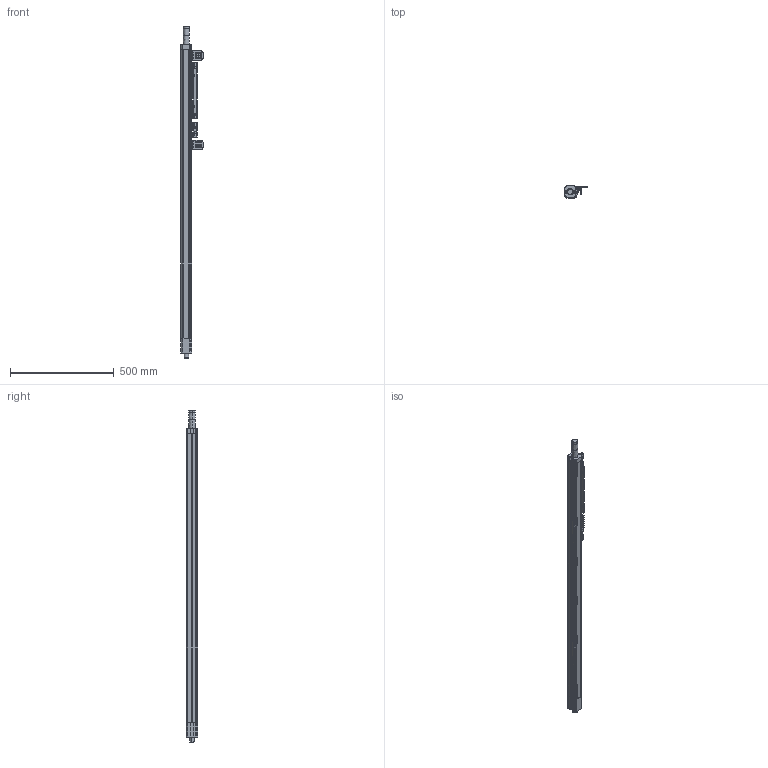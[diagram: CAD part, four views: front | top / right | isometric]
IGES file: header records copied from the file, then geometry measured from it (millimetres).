
Global section: file name: M:\acadjob\COMPACT\IGES-Daten für Kunden\Compact Plus\Compact_Plus_1350-ml.igs; native system: AutoCAD-15.05s (LMS Tech) (Microsoft Windows NT Version 5.1 (x86)); preprocessor: Autodesk IGES Translator R2000i (Jul 31 2000) from Autodesk, Inc.; date: 20070312.095459; units: millimetre
Bounding box: 106.19 x 55.58 x 1597 mm (x, y, z)
Surface area: 663866.8 mm2 (no closed solid volume)
Topology: 0 solids, 0 shells, 472 faces, 11647 edges, 11647 vertices
Faces by surface type: bspline 472
